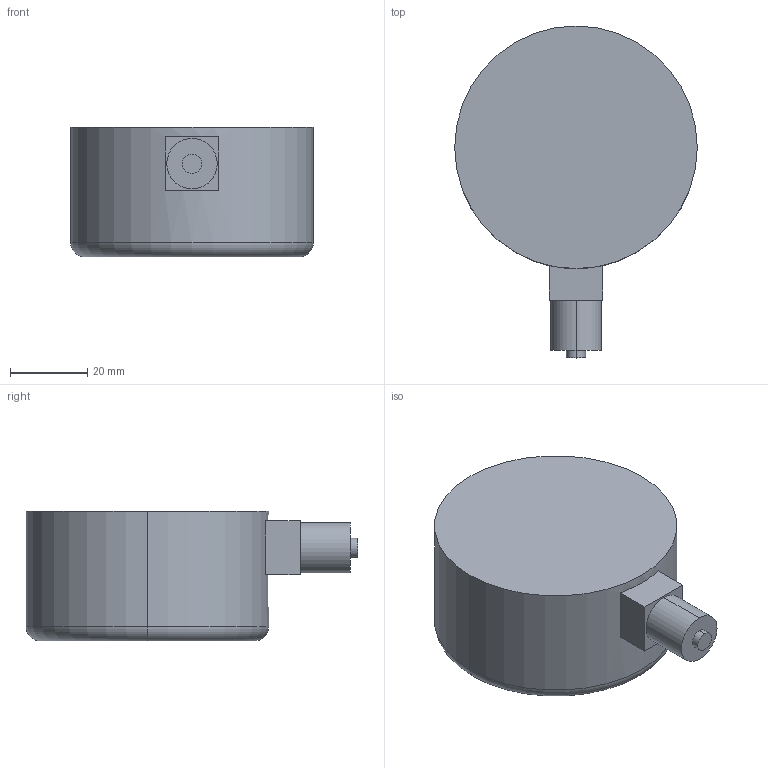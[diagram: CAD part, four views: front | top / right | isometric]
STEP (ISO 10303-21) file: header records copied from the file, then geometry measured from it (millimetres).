
FILE_DESCRIPTION (( 'STEP AP214' ), '1' );
FILE_NAME ('Manometr_puszkowy_x_0_3D_AFRISO.STEP', '2022-12-14T12:07:35', ( '' ), ( '' ), 'SwSTEP 2.0', 'SolidWorks 2022', '' );
FILE_SCHEMA (( 'AUTOMOTIVE_DESIGN' ));
Length unit declared in the file: millimetre
Products named in the file (1): Manometr_puszkowy_x_0_3D_AFRISO
Bounding box: 63 x 86.2 x 33.7 mm (x, y, z)
Volume: 107934.8 mm3; surface area: 13637.4 mm2
Topology: 1 solids, 1 shells, 17 faces, 34 edges, 22 vertices
Faces by surface type: plane 9, cylinder 6, torus 2
Entity records: 484 total; most frequent: DIRECTION 88, CARTESIAN_POINT 74, ORIENTED_EDGE 68, AXIS2_PLACEMENT_3D 36, EDGE_CURVE 34, VERTEX_POINT 22, EDGE_LOOP 20, CIRCLE 18
